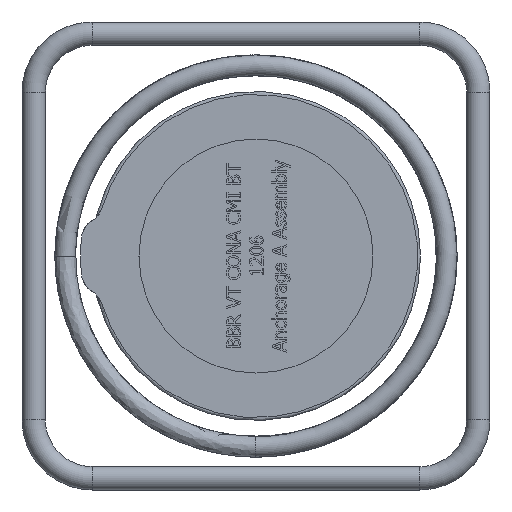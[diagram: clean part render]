
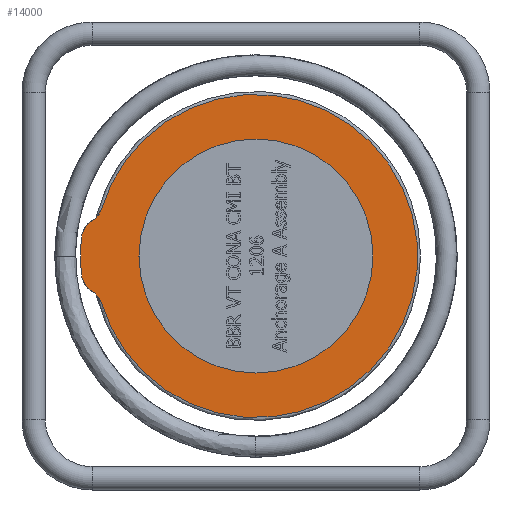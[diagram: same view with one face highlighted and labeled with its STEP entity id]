
A CAD part, left-side view. The second image highlights one B-rep face of the part: STEP entity #14000.
In plain terms, the highlighted planar face has unit normal (-1, 0, 0).
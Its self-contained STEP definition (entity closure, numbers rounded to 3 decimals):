
#612=B_SPLINE_CURVE_WITH_KNOTS('',3,(#24295,#24296,#24297,#24298,#24299,
#24300,#24301,#24302,#24303,#24304),.UNSPECIFIED.,.F.,.F.,(4,2,2,2,4),(-0.002,
0.,0.262,0.626,0.867),.UNSPECIFIED.);
#613=B_SPLINE_CURVE_WITH_KNOTS('',3,(#24308,#24309,#24310,#24311,#24312,
#24313,#24314,#24315,#24316,#24317),.UNSPECIFIED.,.F.,.F.,(4,2,2,2,4),(0.,
0.289,0.726,1.041,1.044),
 .UNSPECIFIED.);
#3431=PLANE('',#14533);
#3571=FACE_BOUND('',#5138,.T.);
#4276=FACE_OUTER_BOUND('',#5137,.T.);
#5137=EDGE_LOOP('',(#12022,#12023,#12024,#12025,#12026,#12027));
#5138=EDGE_LOOP('',(#12028));
#5412=CIRCLE('',#14534,110.5);
#5413=CIRCLE('',#14535,15.);
#5414=CIRCLE('',#14536,120.);
#5415=CIRCLE('',#14537,15.);
#5416=CIRCLE('',#14538,80.);
#6684=VERTEX_POINT('',#24293);
#6685=VERTEX_POINT('',#24294);
#6686=VERTEX_POINT('',#24305);
#6687=VERTEX_POINT('',#24307);
#6688=VERTEX_POINT('',#24318);
#6689=VERTEX_POINT('',#24320);
#6690=VERTEX_POINT('',#24323);
#8498=EDGE_CURVE('',#6684,#6685,#612,.T.);
#8499=EDGE_CURVE('',#6684,#6686,#5412,.T.);
#8500=EDGE_CURVE('',#6687,#6686,#613,.T.);
#8501=EDGE_CURVE('',#6688,#6687,#5413,.T.);
#8502=EDGE_CURVE('',#6688,#6689,#5414,.T.);
#8503=EDGE_CURVE('',#6685,#6689,#5415,.T.);
#8504=EDGE_CURVE('',#6690,#6690,#5416,.T.);
#12022=ORIENTED_EDGE('',*,*,#8498,.F.);
#12023=ORIENTED_EDGE('',*,*,#8499,.T.);
#12024=ORIENTED_EDGE('',*,*,#8500,.F.);
#12025=ORIENTED_EDGE('',*,*,#8501,.F.);
#12026=ORIENTED_EDGE('',*,*,#8502,.T.);
#12027=ORIENTED_EDGE('',*,*,#8503,.F.);
#12028=ORIENTED_EDGE('',*,*,#8504,.F.);
#14000=ADVANCED_FACE('',(#4276,#3571),#3431,.T.);
#14533=AXIS2_PLACEMENT_3D('',#24292,#16616,#16617);
#14534=AXIS2_PLACEMENT_3D('',#24306,#16618,#16619);
#14535=AXIS2_PLACEMENT_3D('',#24319,#16620,#16621);
#14536=AXIS2_PLACEMENT_3D('',#24321,#16622,#16623);
#14537=AXIS2_PLACEMENT_3D('',#24322,#16624,#16625);
#14538=AXIS2_PLACEMENT_3D('',#24324,#16626,#16627);
#16616=DIRECTION('center_axis',(-1.,0.,0.));
#16617=DIRECTION('ref_axis',(0.,0.,1.));
#16618=DIRECTION('center_axis',(-1.,0.,0.));
#16619=DIRECTION('ref_axis',(0.,0.,
1.));
#16620=DIRECTION('center_axis',(1.,0.,0.));
#16621=DIRECTION('ref_axis',(0.,0.7,0.714));
#16622=DIRECTION('center_axis',(-1.,0.,0.));
#16623=DIRECTION('ref_axis',(0.,1.,0.));
#16624=DIRECTION('center_axis',(1.,0.,0.));
#16625=DIRECTION('ref_axis',(0.,0.7,-0.714));
#16626=DIRECTION('center_axis',(-1.,0.,0.));
#16627=DIRECTION('ref_axis',(0.,-1.,0.));
#24292=CARTESIAN_POINT('Origin',(-92.904,-137.335,0.));
#24293=CARTESIAN_POINT('',(-92.904,56.655,-31.244));
#24294=CARTESIAN_POINT('',(-92.904,61.917,-24.646));
#24295=CARTESIAN_POINT('Ctrl Pts',(-92.904,56.655,-31.244));
#24296=CARTESIAN_POINT('Ctrl Pts',(-92.904,56.659,-31.239));
#24297=CARTESIAN_POINT('Ctrl Pts',(-92.904,56.662,-31.234));
#24298=CARTESIAN_POINT('Ctrl Pts',(-92.904,57.145,-30.498));
#24299=CARTESIAN_POINT('Ctrl Pts',(-92.904,57.595,-29.723));
#24300=CARTESIAN_POINT('Ctrl Pts',(-92.904,58.667,-27.928));
#24301=CARTESIAN_POINT('Ctrl Pts',(-92.904,59.253,-26.993));
#24302=CARTESIAN_POINT('Ctrl Pts',(-92.904,60.419,-25.685));
#24303=CARTESIAN_POINT('Ctrl Pts',(-92.904,61.06,-25.087));
#24304=CARTESIAN_POINT('Ctrl Pts',(-92.904,61.917,-24.646));
#24305=CARTESIAN_POINT('',(-92.904,56.655,31.244));
#24306=CARTESIAN_POINT('Origin',(-92.904,-49.335,0.));
#24307=CARTESIAN_POINT('',(-92.904,61.917,24.646));
#24308=CARTESIAN_POINT('Ctrl Pts',(-92.904,61.917,24.646));
#24309=CARTESIAN_POINT('Ctrl Pts',(-92.904,61.06,25.087));
#24310=CARTESIAN_POINT('Ctrl Pts',(-92.904,60.419,25.685));
#24311=CARTESIAN_POINT('Ctrl Pts',(-92.904,59.253,26.993));
#24312=CARTESIAN_POINT('Ctrl Pts',(-92.904,58.667,27.928));
#24313=CARTESIAN_POINT('Ctrl Pts',(-92.904,57.595,29.723));
#24314=CARTESIAN_POINT('Ctrl Pts',(-92.904,57.145,30.498));
#24315=CARTESIAN_POINT('Ctrl Pts',(-92.904,56.662,31.234));
#24316=CARTESIAN_POINT('Ctrl Pts',(-92.904,56.659,31.239));
#24317=CARTESIAN_POINT('Ctrl Pts',(-92.904,56.655,31.244));
#24318=CARTESIAN_POINT('',(-92.904,69.967,12.924));
#24319=CARTESIAN_POINT('Origin',(-92.904,55.054,11.308));
#24320=CARTESIAN_POINT('',(-92.904,69.967,-12.924));
#24321=CARTESIAN_POINT('Origin',(-92.904,-49.335,0.));
#24322=CARTESIAN_POINT('Origin',(-92.904,55.054,-11.308));
#24323=CARTESIAN_POINT('',(-92.904,-49.335,-80.));
#24324=CARTESIAN_POINT('Origin',(-92.904,-49.335,0.));
